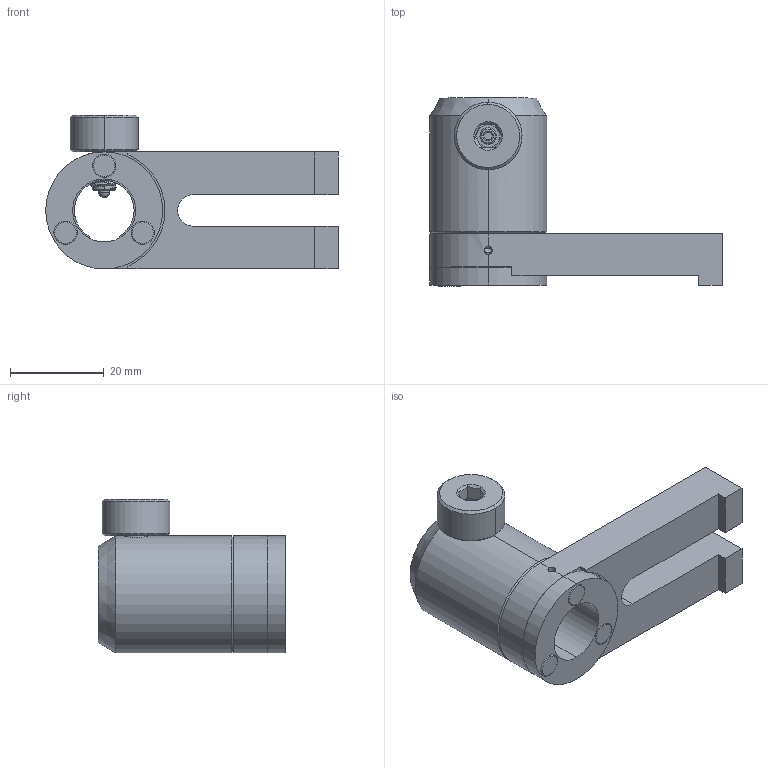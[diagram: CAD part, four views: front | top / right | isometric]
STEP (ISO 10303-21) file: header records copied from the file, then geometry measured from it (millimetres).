
FILE_DESCRIPTION((''),'2;1');
FILE_NAME('CA40-XC_ASM','2020-12-21T',('Administrator'),(''),'CREO PARAMETRIC BY PTC INC, 2015290','CREO PARAMETRIC BY PTC INC, 2015290','');
FILE_SCHEMA(('CONFIG_CONTROL_DESIGN'));
Length unit declared in the file: millimetre
Products named in the file (9): CAXX-XC_A2; CAXX-XC_A3; CA40-XC_A1; MAGNET_5X3; M6_SCREW_1; M4X3_HS_2; SPRING_3X6; M6_SCREW_2; CA40-XC_ASM
Assembly tree (10 placements, depth 2):
  CA40-XC_ASM
    CAXX-XC_A2
    CAXX-XC_A3
    CA40-XC_A1
    MAGNET_5X3  x3
    M6_SCREW_1
    M4X3_HS_2
    SPRING_3X6
    M6_SCREW_2
Bounding box: 62.5 x 40.13 x 32.87 mm (x, y, z)
Volume: 21868.6 mm3; surface area: 13036.5 mm2
Topology: 10 solids, 10 shells, 277 faces, 687 edges, 438 vertices
Faces by surface type: cylinder 122, plane 78, bspline 35, cone 28, torus 12, sphere 2
Entity records: 25638 total; most frequent: CARTESIAN_POINT 19552, ORIENTED_EDGE 1306, DIRECTION 1081, EDGE_CURVE 653, VERTEX_POINT 422, AXIS2_PLACEMENT_3D 397, EDGE_LOOP 289, VECTOR 287
